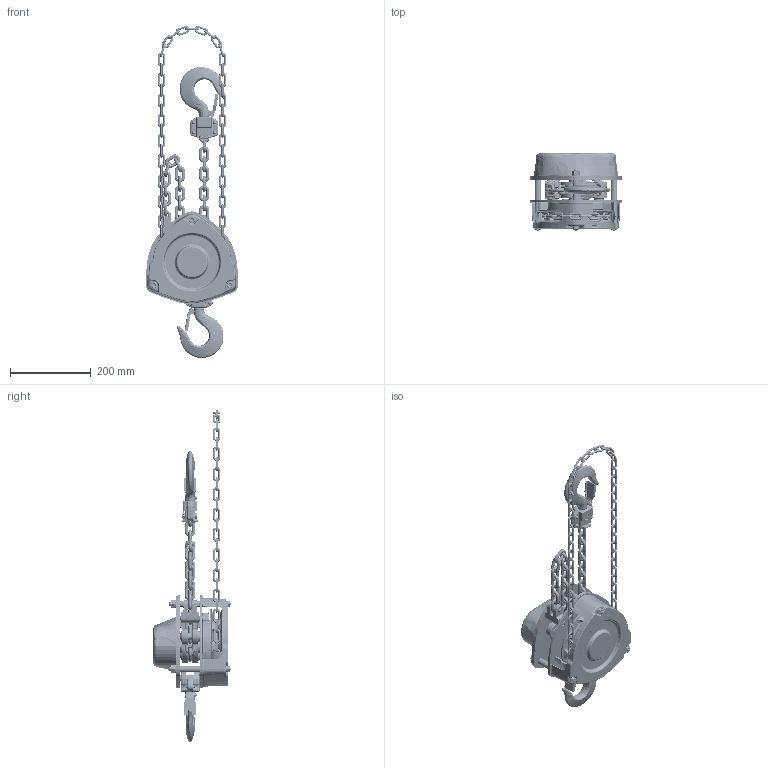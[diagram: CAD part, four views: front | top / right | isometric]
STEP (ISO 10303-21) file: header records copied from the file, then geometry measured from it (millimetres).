
FILE_DESCRIPTION (( 'STEP AP214' ), '1' );
FILE_NAME ('CB025.STEP', '2026-08-13T14:50:36', ( '' ), ( '' ), 'SwSTEP 2.0', 'SolidWorks 2026', '' );
FILE_SCHEMA (( 'AUTOMOTIVE_DESIGN' ));
Length unit declared in the file: inch
Products named in the file (47): 9012711_9012711; 9009412_9009412; M3B115025; M3B102025; M3041020; C3BA025-91722; Copy (2) of Part2^C3BA025-10012; C3BA025-91031; M3171025; C3BA025-20012; Copy of Part2^C3BA025-10012; C3BA025-90312; M316025; Copy (3) of Part2^C3BA025-10012; Rivet Label_PEM TFH-632-4 ZI--N; C3BA025-10012; C3BA025-10211; C3BA005-91731; M3177025; C3BA025-90111; C3BA025-91012; LCC3020; C3BA025-91201; C3BA025-91711; C3BA025-61012; C3BA025-90012; M3700025; M3162025; M2049020_JIS B 1170 Small hexagon slotted nut Class 1 Low type Medium M10 --N; M3161025; CB025 HAND CHAIN; 9093424_9093424; M3116025; C3BA025-91022; CF071020; 9012713_9012713; Part2^C3BA025-10211; Copy (4) of Part2^C3BA025-10012; C3BA025-91561; M3176025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
Assembly tree (169 placements, depth 4):
  CB025
    M3171025
      C3BA025-91711
      C3BA005-91731  x2
    M3103025
      C3BA025-91031
      C3BA025-91201  x2
    M3B102025
      C3BA025-91022
      C3BA025-91201  x2
    9012713_9012713  x3
    9093433_9093433  x3
    9012711_9012711  x3
    9093424_9093424  x3
    M3B101025
      C3BA025-61012
        C3BA025-91012
        C3BA025-91722
      C3BA025-91042  x3
      C3BA025-91561
    M3B115025
    M3116025
    M316025
    M3161025  x2
    M3162025
    M3176025
    Rivet Label_PEM TFH-632-4 ZI--N  x4
    M3177025
    CB025 HAND CHAIN
      HCCF005  x62
    LCC3020  x35
    CB080 LABEL
    C3BA025-10211
      Part2^C3BA025-10211  x8
      C3BA025-90312  x2
      C3BA025-20012
        C3BA025-90012
        CF071020
    M2049020_JIS B 1170 Small hexagon slotted nut Class 1 Low type Medium M10 --N
    M3041020
    9009412_9009412
    C3BA025-10012
      C3BA025-90111  x2
      C3BA025-20012
        C3BA025-90012
        CF071020
      Copy of Part2^C3BA025-10012
      Copy (2) of Part2^C3BA025-10012
      Copy (3) of Part2^C3BA025-10012
      Copy (4) of Part2^C3BA025-10012
    M3700025
Bounding box: 228 x 191.5 x 821.37 mm (x, y, z)
Volume: 2103073.5 mm3; surface area: 966953.6 mm2
Topology: 164 solids, 164 shells, 5199 faces, 12628 edges, 7552 vertices
Faces by surface type: cylinder 1453, plane 1223, torus 1133, bspline 817, cone 513, sphere 60
Entity records: 156817 total; most frequent: CARTESIAN_POINT 78151, ORIENTED_EDGE 16746, DIRECTION 14515, EDGE_CURVE 8373, AXIS2_PLACEMENT_3D 5745, VERTEX_POINT 5192, EDGE_LOOP 3527, ADVANCED_FACE 3319
